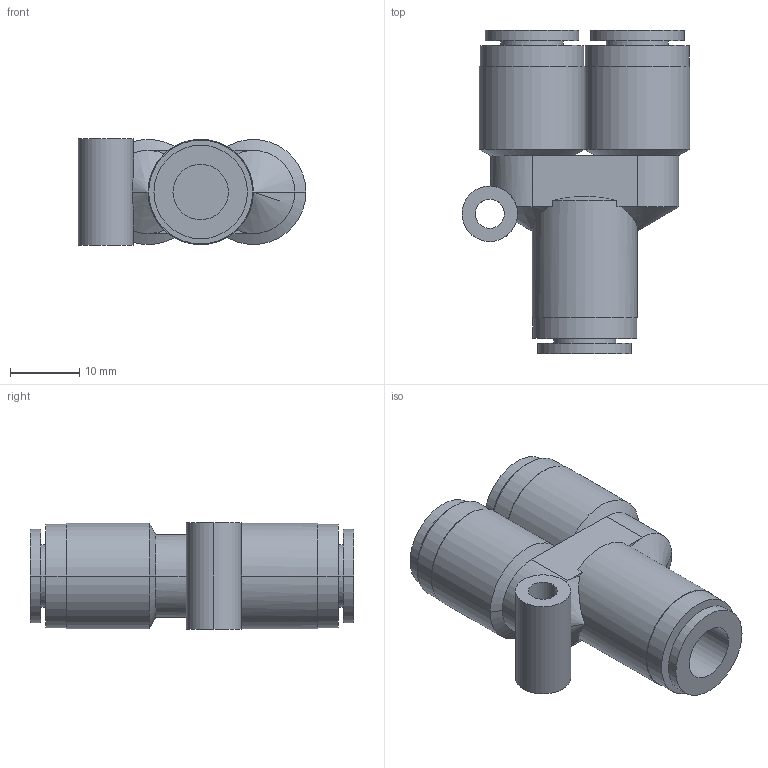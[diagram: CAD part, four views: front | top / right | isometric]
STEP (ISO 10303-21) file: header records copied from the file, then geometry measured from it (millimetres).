
FILE_DESCRIPTION( ( '' ), '1' );
FILE_NAME( 'G:/SMC狟婥/KPU08-00.stp', '2023-03-07T02:14:42', ( '' ), ( '' ), ' ', ' ', ' ' );
FILE_SCHEMA( ( 'CONFIG_CONTROL_DESIGN' ) );
Length unit declared in the file: millimetre
Products named in the file (1): 1
Bounding box: 32.9 x 46.7 x 15.4 mm (x, y, z)
Volume: 9624.5 mm3; surface area: 6539.9 mm2
Topology: 1 solids, 1 shells, 72 faces, 161 edges, 99 vertices
Faces by surface type: cylinder 38, plane 24, cone 10
Entity records: 2247 total; most frequent: CARTESIAN_POINT 561, DIRECTION 379, ORIENTED_EDGE 314, AXIS2_PLACEMENT_3D 161, EDGE_CURVE 157, VERTEX_POINT 99, CIRCLE 88, EDGE_LOOP 86
